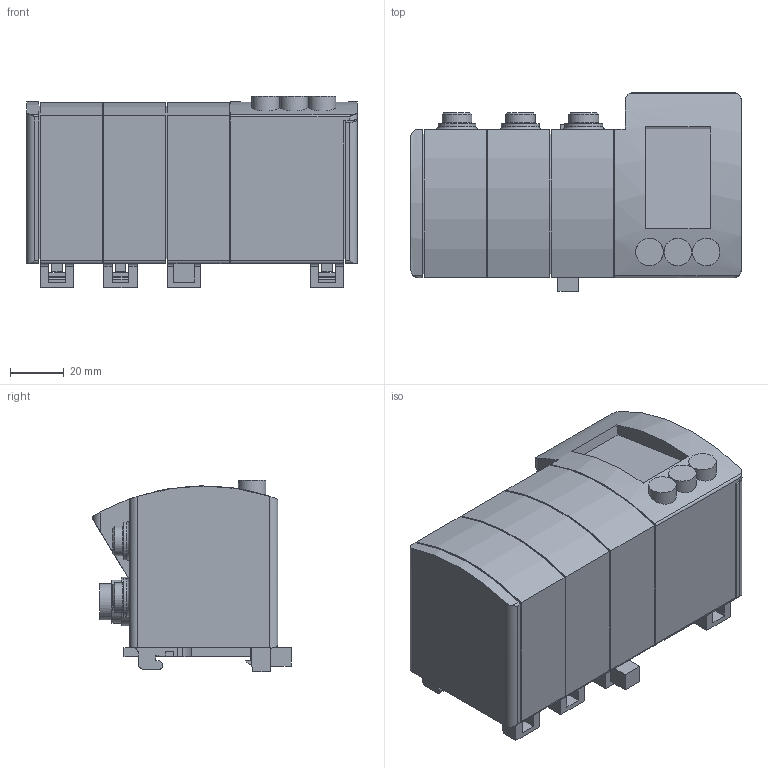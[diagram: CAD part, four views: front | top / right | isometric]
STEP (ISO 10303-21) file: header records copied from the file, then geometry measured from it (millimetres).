
FILE_DESCRIPTION(/* description */ ('STEP AP214'),/* implementation_level */ '2;1');
FILE_NAME(/* name */ 'P_MZ_200_0185',/* time_stamp */ '2023-03-03T11:04:56+01:00',/* author */ ('License CC BY-ND 4.0'),/* organization */ ('CADENAS'),/* preprocessor_version */ 'ST-DEVELOPER v18.102',/* originating_system */ 'PARTsolutions',/* authorisation */ ' ');
FILE_SCHEMA (('AUTOMOTIVE_DESIGN {1 0 10303 214 3 1 1}'));
Length unit declared in the file: millimetre
Products named in the file (1): P_MZ_200_0185
Bounding box: 122.5 x 73.6 x 71 mm (x, y, z)
Volume: 407679.5 mm3; surface area: 46497.3 mm2
Topology: 1 solids, 1 shells, 393 faces, 1080 edges, 713 vertices
Faces by surface type: plane 277, cylinder 97, torus 12, cone 6, sphere 1
Full cylindrical faces by diameter (mm): 2 x1, 8 x6, 10.2 x3, 11 x6, 12 x1, 13.5 x1, 14 x6, 16 x1, 18 x1, 25 x1
Entity records: 14971 total; most frequent: CARTESIAN_POINT 2229, ORIENTED_EDGE 2054, DIRECTION 1995, EDGE_CURVE 1027, LINE 805, VECTOR 805, VERTEX_POINT 706, AXIS2_PLACEMENT_3D 595
